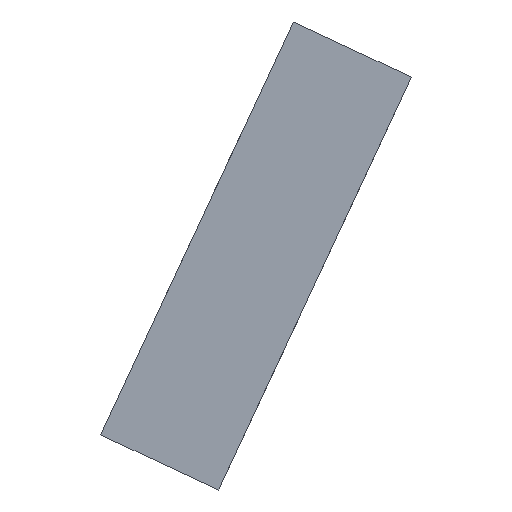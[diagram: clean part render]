
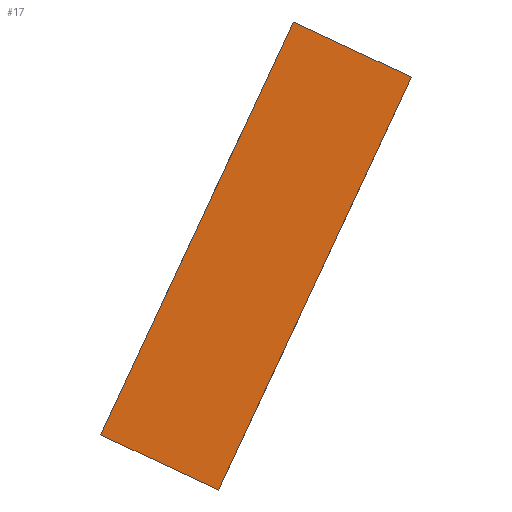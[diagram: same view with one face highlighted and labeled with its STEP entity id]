
A CAD part, left-side view. The second image highlights one B-rep face of the part: STEP entity #17.
In plain terms, the highlighted planar face has unit normal (-1, 0, 0).
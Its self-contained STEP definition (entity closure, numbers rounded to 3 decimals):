
#17 = ADVANCED_FACE('',(#18),#32,.F.);
#18 = FACE_BOUND('',#19,.F.);
#19 = EDGE_LOOP('',(#20,#55,#83,#111));
#20 = ORIENTED_EDGE('',*,*,#21,.F.);
#21 = EDGE_CURVE('',#22,#24,#26,.T.);
#22 = VERTEX_POINT('',#23);
#23 = CARTESIAN_POINT('',(0.5,-12.383,32.7));
#24 = VERTEX_POINT('',#25);
#25 = CARTESIAN_POINT('',(0.5,-14.196,31.855));
#26 = SURFACE_CURVE('',#27,(#31,#43),.PCURVE_S1.);
#27 = LINE('',#28,#29);
#28 = CARTESIAN_POINT('',(0.5,-12.383,32.7));
#29 = VECTOR('',#30,1.);
#30 = DIRECTION('',(0.,-0.906,-0.423));
#31 = PCURVE('',#32,#37);
#32 = PLANE('',#33);
#33 = AXIS2_PLACEMENT_3D('',#34,#35,#36);
#34 = CARTESIAN_POINT('',(0.5,-12.383,32.7));
#35 = DIRECTION('',(1.,0.,0.));
#36 = DIRECTION('',(0.,-0.906,-0.423));
#37 = DEFINITIONAL_REPRESENTATION('',(#38),#42);
#38 = LINE('',#39,#40);
#39 = CARTESIAN_POINT('',(0.,0.));
#40 = VECTOR('',#41,1.);
#41 = DIRECTION('',(1.,0.));
#42 = ( GEOMETRIC_REPRESENTATION_CONTEXT(2) 
PARAMETRIC_REPRESENTATION_CONTEXT() REPRESENTATION_CONTEXT('2D SPACE',''
  ) );
#43 = PCURVE('',#44,#49);
#44 = PLANE('',#45);
#45 = AXIS2_PLACEMENT_3D('',#46,#47,#48);
#46 = CARTESIAN_POINT('',(0.5,-12.383,32.7));
#47 = DIRECTION('',(0.,-0.423,0.906));
#48 = DIRECTION('',(0.,-0.906,-0.423));
#49 = DEFINITIONAL_REPRESENTATION('',(#50),#54);
#50 = LINE('',#51,#52);
#51 = CARTESIAN_POINT('',(0.,0.));
#52 = VECTOR('',#53,1.);
#53 = DIRECTION('',(1.,0.));
#54 = ( GEOMETRIC_REPRESENTATION_CONTEXT(2) 
PARAMETRIC_REPRESENTATION_CONTEXT() REPRESENTATION_CONTEXT('2D SPACE',''
  ) );
#55 = ORIENTED_EDGE('',*,*,#56,.T.);
#56 = EDGE_CURVE('',#22,#57,#59,.T.);
#57 = VERTEX_POINT('',#58);
#58 = CARTESIAN_POINT('',(0.5,-15.341,39.044));
#59 = SURFACE_CURVE('',#60,(#64,#71),.PCURVE_S1.);
#60 = LINE('',#61,#62);
#61 = CARTESIAN_POINT('',(0.5,-12.383,32.7));
#62 = VECTOR('',#63,1.);
#63 = DIRECTION('',(0.,-0.423,0.906));
#64 = PCURVE('',#32,#65);
#65 = DEFINITIONAL_REPRESENTATION('',(#66),#70);
#66 = LINE('',#67,#68);
#67 = CARTESIAN_POINT('',(0.,0.));
#68 = VECTOR('',#69,1.);
#69 = DIRECTION('',(0.,-1.));
#70 = ( GEOMETRIC_REPRESENTATION_CONTEXT(2) 
PARAMETRIC_REPRESENTATION_CONTEXT() REPRESENTATION_CONTEXT('2D SPACE',''
  ) );
#71 = PCURVE('',#72,#77);
#72 = PLANE('',#73);
#73 = AXIS2_PLACEMENT_3D('',#74,#75,#76);
#74 = CARTESIAN_POINT('',(0.5,-12.383,32.7));
#75 = DIRECTION('',(0.,-0.906,-0.423));
#76 = DIRECTION('',(1.,0.,0.));
#77 = DEFINITIONAL_REPRESENTATION('',(#78),#82);
#78 = LINE('',#79,#80);
#79 = CARTESIAN_POINT('',(0.,0.));
#80 = VECTOR('',#81,1.);
#81 = DIRECTION('',(0.,1.));
#82 = ( GEOMETRIC_REPRESENTATION_CONTEXT(2) 
PARAMETRIC_REPRESENTATION_CONTEXT() REPRESENTATION_CONTEXT('2D SPACE',''
  ) );
#83 = ORIENTED_EDGE('',*,*,#84,.T.);
#84 = EDGE_CURVE('',#57,#85,#87,.T.);
#85 = VERTEX_POINT('',#86);
#86 = CARTESIAN_POINT('',(0.5,-17.154,38.199));
#87 = SURFACE_CURVE('',#88,(#92,#99),.PCURVE_S1.);
#88 = LINE('',#89,#90);
#89 = CARTESIAN_POINT('',(0.5,-15.341,39.044));
#90 = VECTOR('',#91,1.);
#91 = DIRECTION('',(0.,-0.906,-0.423));
#92 = PCURVE('',#32,#93);
#93 = DEFINITIONAL_REPRESENTATION('',(#94),#98);
#94 = LINE('',#95,#96);
#95 = CARTESIAN_POINT('',(0.,-7.));
#96 = VECTOR('',#97,1.);
#97 = DIRECTION('',(1.,0.));
#98 = ( GEOMETRIC_REPRESENTATION_CONTEXT(2) 
PARAMETRIC_REPRESENTATION_CONTEXT() REPRESENTATION_CONTEXT('2D SPACE',''
  ) );
#99 = PCURVE('',#100,#105);
#100 = PLANE('',#101);
#101 = AXIS2_PLACEMENT_3D('',#102,#103,#104);
#102 = CARTESIAN_POINT('',(0.5,-15.341,39.044));
#103 = DIRECTION('',(0.,-0.423,0.906));
#104 = DIRECTION('',(0.,-0.906,-0.423));
#105 = DEFINITIONAL_REPRESENTATION('',(#106),#110);
#106 = LINE('',#107,#108);
#107 = CARTESIAN_POINT('',(0.,0.));
#108 = VECTOR('',#109,1.);
#109 = DIRECTION('',(1.,0.));
#110 = ( GEOMETRIC_REPRESENTATION_CONTEXT(2) 
PARAMETRIC_REPRESENTATION_CONTEXT() REPRESENTATION_CONTEXT('2D SPACE',''
  ) );
#111 = ORIENTED_EDGE('',*,*,#112,.F.);
#112 = EDGE_CURVE('',#24,#85,#113,.T.);
#113 = SURFACE_CURVE('',#114,(#118,#125),.PCURVE_S1.);
#114 = LINE('',#115,#116);
#115 = CARTESIAN_POINT('',(0.5,-14.196,31.855));
#116 = VECTOR('',#117,1.);
#117 = DIRECTION('',(0.,-0.423,0.906));
#118 = PCURVE('',#32,#119);
#119 = DEFINITIONAL_REPRESENTATION('',(#120),#124);
#120 = LINE('',#121,#122);
#121 = CARTESIAN_POINT('',(2.,0.));
#122 = VECTOR('',#123,1.);
#123 = DIRECTION('',(0.,-1.));
#124 = ( GEOMETRIC_REPRESENTATION_CONTEXT(2) 
PARAMETRIC_REPRESENTATION_CONTEXT() REPRESENTATION_CONTEXT('2D SPACE',''
  ) );
#125 = PCURVE('',#126,#131);
#126 = PLANE('',#127);
#127 = AXIS2_PLACEMENT_3D('',#128,#129,#130);
#128 = CARTESIAN_POINT('',(0.5,-14.196,31.855));
#129 = DIRECTION('',(0.,-0.906,-0.423));
#130 = DIRECTION('',(1.,0.,0.));
#131 = DEFINITIONAL_REPRESENTATION('',(#132),#136);
#132 = LINE('',#133,#134);
#133 = CARTESIAN_POINT('',(0.,0.));
#134 = VECTOR('',#135,1.);
#135 = DIRECTION('',(0.,1.));
#136 = ( GEOMETRIC_REPRESENTATION_CONTEXT(2) 
PARAMETRIC_REPRESENTATION_CONTEXT() REPRESENTATION_CONTEXT('2D SPACE',''
  ) );
